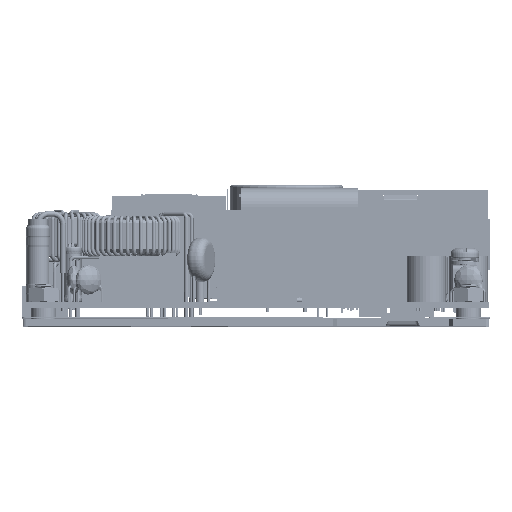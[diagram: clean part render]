
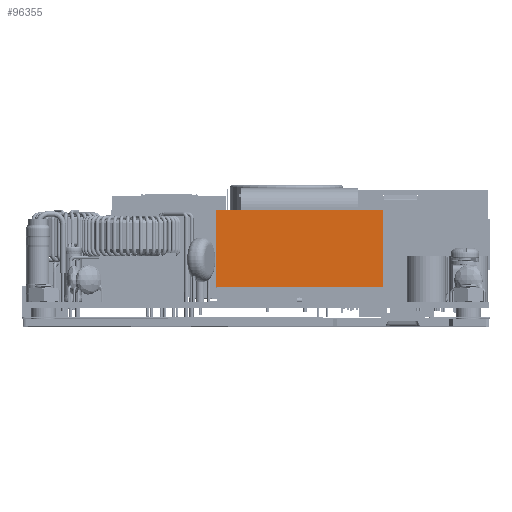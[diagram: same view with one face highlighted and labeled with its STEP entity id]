
A CAD part, top view. The second image highlights one B-rep face of the part: STEP entity #96355.
In plain terms, the highlighted planar face has unit normal (0, 0, 1).
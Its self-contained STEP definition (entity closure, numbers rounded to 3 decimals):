
#11453 = FACE_OUTER_BOUND ( 'NONE', #119973, .T. ) ;
#17657 = ORIENTED_EDGE ( 'NONE', *, *, #113762, .F. ) ;
#19012 = DIRECTION ( 'NONE',  ( 1., 0., 0. ) ) ;
#22219 = CARTESIAN_POINT ( 'NONE',  ( -22.7, 25., 20.9 ) ) ;
#24512 = DIRECTION ( 'NONE',  ( 1., 0., 0. ) ) ;
#27950 = VERTEX_POINT ( 'NONE', #22219 ) ;
#32221 = VECTOR ( 'NONE', #32438, 1000. ) ;
#32438 = DIRECTION ( 'NONE',  ( 0., -1., 0. ) ) ;
#34431 = EDGE_CURVE ( 'NONE', #27950, #119941, #109444, .T. ) ;
#37716 = EDGE_CURVE ( 'NONE', #68679, #154083, #49174, .T. ) ;
#38413 = ORIENTED_EDGE ( 'NONE', *, *, #82378, .T. ) ;
#47008 = CARTESIAN_POINT ( 'NONE',  ( -22.7, 25., 20.9 ) ) ;
#48696 = ORIENTED_EDGE ( 'NONE', *, *, #34431, .F. ) ;
#49174 = LINE ( 'NONE', #87010, #135210 ) ;
#49255 = DIRECTION ( 'NONE',  ( 0., 0., -1. ) ) ;
#50860 = PLANE ( 'NONE',  #147521 ) ;
#56904 = DIRECTION ( 'NONE',  ( 0., -1., 0. ) ) ;
#58705 = LINE ( 'NONE', #85817, #32221 ) ;
#59365 = LINE ( 'NONE', #47008, #83884 ) ;
#68679 = VERTEX_POINT ( 'NONE', #146104 ) ;
#73131 = CARTESIAN_POINT ( 'NONE',  ( 22.7, 25., 20.9 ) ) ;
#82378 = EDGE_CURVE ( 'NONE', #27950, #68679, #59365, .T. ) ;
#83884 = VECTOR ( 'NONE', #56904, 1000. ) ;
#85817 = CARTESIAN_POINT ( 'NONE',  ( 22.7, 25., 20.9 ) ) ;
#87010 = CARTESIAN_POINT ( 'NONE',  ( 22.7, 4., 20.9 ) ) ;
#92073 = ORIENTED_EDGE ( 'NONE', *, *, #37716, .T. ) ;
#92241 = VECTOR ( 'NONE', #19012, 1000. ) ;
#94661 = CARTESIAN_POINT ( 'NONE',  ( 22.7, 25., 20.9 ) ) ;
#96355 = ADVANCED_FACE ( 'NONE', ( #11453 ), #50860, .F. ) ;
#109444 = LINE ( 'NONE', #94661, #92241 ) ;
#113762 = EDGE_CURVE ( 'NONE', #119941, #154083, #58705, .T. ) ;
#114895 = CARTESIAN_POINT ( 'NONE',  ( 22.7, 4., 20.9 ) ) ;
#119941 = VERTEX_POINT ( 'NONE', #150924 ) ;
#119973 = EDGE_LOOP ( 'NONE', ( #38413, #92073, #17657, #48696 ) ) ;
#135210 = VECTOR ( 'NONE', #24512, 1000. ) ;
#146104 = CARTESIAN_POINT ( 'NONE',  ( -22.7, 4., 20.9 ) ) ;
#147521 = AXIS2_PLACEMENT_3D ( 'NONE', #73131, #49255, #150345 ) ;
#150345 = DIRECTION ( 'NONE',  ( -1., 0., 0. ) ) ;
#150924 = CARTESIAN_POINT ( 'NONE',  ( 22.7, 25., 20.9 ) ) ;
#154083 = VERTEX_POINT ( 'NONE', #114895 ) ;
